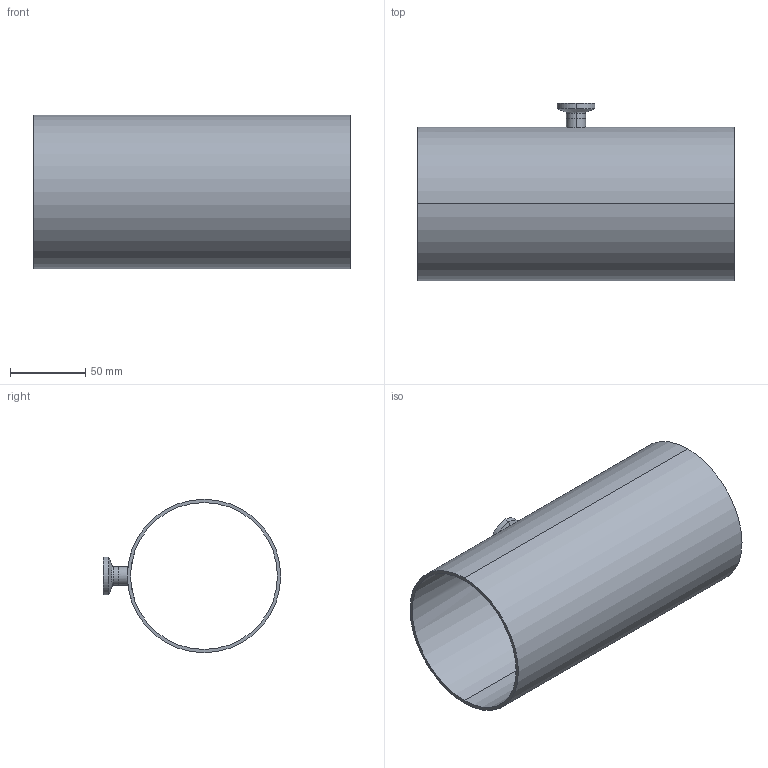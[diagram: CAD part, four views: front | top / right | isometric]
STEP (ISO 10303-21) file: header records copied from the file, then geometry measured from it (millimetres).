
FILE_DESCRIPTION (( 'STEP AP214' ), '1' );
FILE_NAME ('TE7RWWCS6L4.0x.5-...STEP', '2016-05-23T12:23:56', ( 'eran' ), ( '' ), 'SwSTEP 2.0', 'SolidWorks 2016', '' );
FILE_SCHEMA (( 'AUTOMOTIVE_DESIGN' ));
Length unit declared in the file: millimetre
Products named in the file (1): TE7RWWCS6L4.0x.5-..
Bounding box: 209.6 x 117.5 x 101.6 mm (x, y, z)
Volume: 140320 mm3; surface area: 134411.3 mm2
Topology: 2 solids, 2 shells, 34 faces, 70 edges, 42 vertices
Faces by surface type: cylinder 16, bspline 8, plane 6, cone 4
Entity records: 1189 total; most frequent: CARTESIAN_POINT 429, DIRECTION 158, ORIENTED_EDGE 140, EDGE_CURVE 70, AXIS2_PLACEMENT_3D 69, CIRCLE 42, EDGE_LOOP 42, VERTEX_POINT 42
